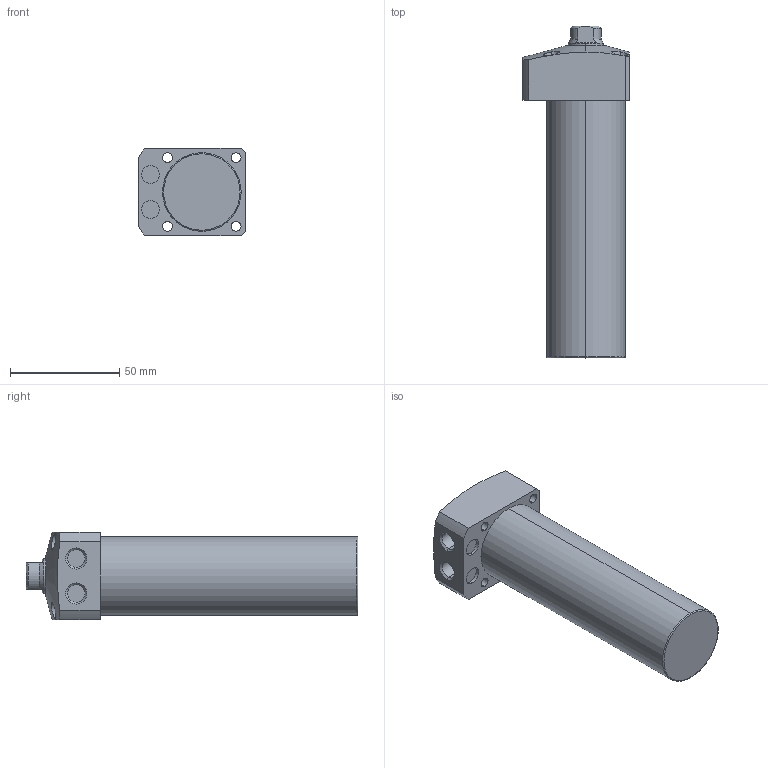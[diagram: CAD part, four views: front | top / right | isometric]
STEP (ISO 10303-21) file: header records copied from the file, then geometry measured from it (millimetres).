
FILE_DESCRIPTION (( 'STEP AP203' ), '1' );
FILE_NAME ('CLL-036CA-095.STEP', '2019-12-20T09:12:56', ( '' ), ( '' ), 'SwSTEP 2.0', 'SolidWorks 2015', '' );
FILE_SCHEMA (( 'CONFIG_CONTROL_DESIGN' ));
Length unit declared in the file: millimetre
Products named in the file (1): CLL-036CA-095
Bounding box: 49 x 152 x 40 mm (x, y, z)
Volume: 161551.8 mm3; surface area: 23521 mm2
Topology: 1 solids, 1 shells, 72 faces, 166 edges, 105 vertices
Faces by surface type: cylinder 34, plane 22, cone 14, torus 2
Entity records: 2453 total; most frequent: CARTESIAN_POINT 708, DIRECTION 364, ORIENTED_EDGE 328, EDGE_CURVE 164, AXIS2_PLACEMENT_3D 151, VERTEX_POINT 105, EDGE_LOOP 91, CIRCLE 78
